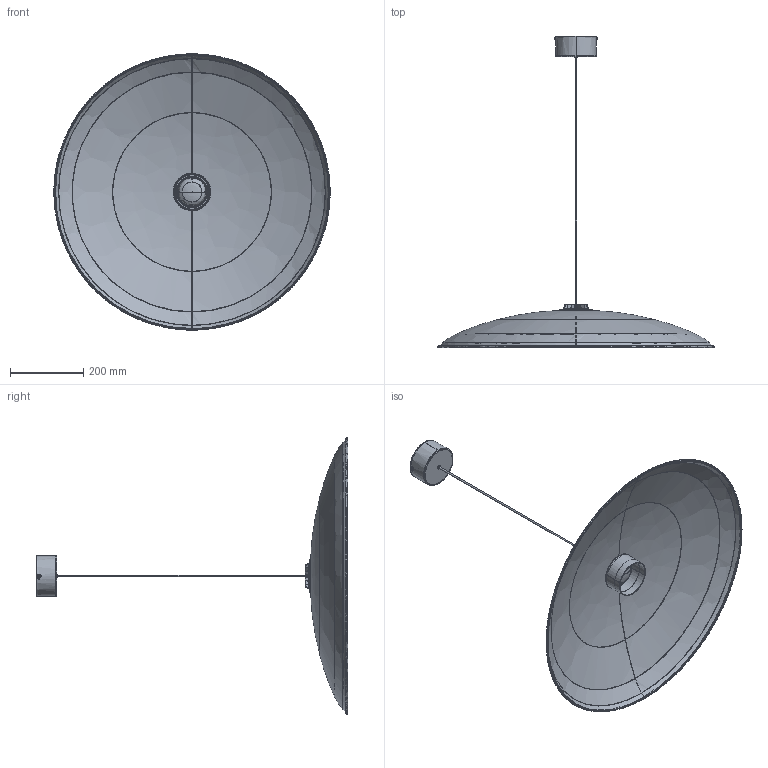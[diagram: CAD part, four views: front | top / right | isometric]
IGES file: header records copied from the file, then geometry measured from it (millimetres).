
Start section: SolidWorks IGES file using analytic representation for surfaces
Global section: file name: C:\SANTACOLE_PDM\Proyectos Catálogo\PROD-P13-003 -- CÁPSULA HEAD LED\6_Técnico comercial\3D\Plate\HeadHat Plate L.IGS; native system: SolidWorks 2019; preprocessor: SolidWorks 2019; author: aina.morell; date: 200406.173151; units: millimetre
Bounding box: 756.44 x 853 x 756.48 mm (x, y, z)
Surface area: 1175848.4 mm2 (no closed solid volume)
Topology: 0 solids, 0 shells, 1804 faces, 20824 edges, 20809 vertices
Faces by surface type: bspline 1521, revolution 283
